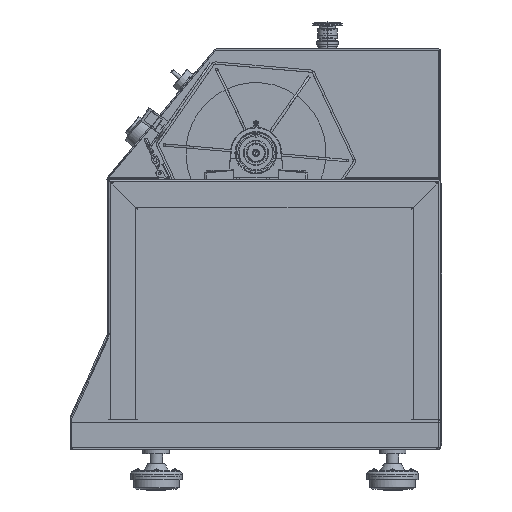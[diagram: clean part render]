
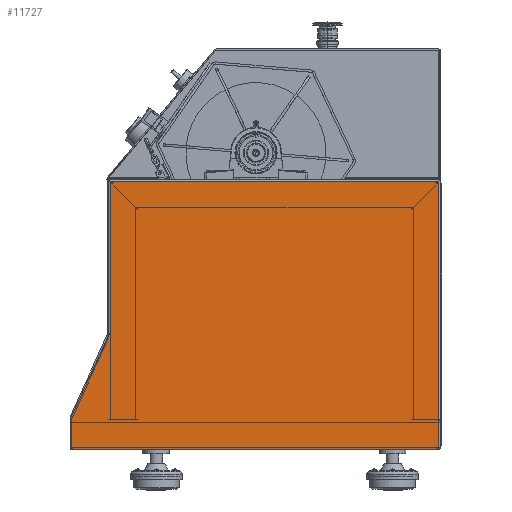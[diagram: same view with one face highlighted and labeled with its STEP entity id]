
A CAD part, left-side view. The second image highlights one B-rep face of the part: STEP entity #11727.
In plain terms, the highlighted planar face has unit normal (-1, 0, 0).
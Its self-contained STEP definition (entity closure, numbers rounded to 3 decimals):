
#11364=CARTESIAN_POINT('Vertex',(-496.5,301.5,94.35)) ;
#11367=CARTESIAN_POINT('Axis2P3D Location',(-496.5,297.,94.35)) ;
#11371=CARTESIAN_POINT('Vertex',(-496.5,301.097,96.212)) ;
#11402=CARTESIAN_POINT('Vertex',(-496.5,301.5,60.)) ;
#11405=CARTESIAN_POINT('Line Origine',(-496.5,301.5,77.175)) ;
#11433=CARTESIAN_POINT('Vertex',(-496.5,296.5,55.)) ;
#11436=CARTESIAN_POINT('Axis2P3D Location',(-496.5,296.5,60.)) ;
#11459=CARTESIAN_POINT('Vertex',(-496.5,-192.,55.)) ;
#11462=CARTESIAN_POINT('Line Origine',(-496.5,52.25,55.)) ;
#11495=CARTESIAN_POINT('Vertex',(-496.5,-197.,60.)) ;
#11498=CARTESIAN_POINT('Axis2P3D Location',(-496.5,-192.,60.)) ;
#11521=CARTESIAN_POINT('Vertex',(-496.5,-197.,412.)) ;
#11524=CARTESIAN_POINT('Line Origine',(-496.5,-197.,236.)) ;
#11557=CARTESIAN_POINT('Vertex',(-496.5,-192.,417.)) ;
#11560=CARTESIAN_POINT('Axis2P3D Location',(-496.5,-192.,412.)) ;
#11583=CARTESIAN_POINT('Vertex',(-496.5,242.,417.)) ;
#11586=CARTESIAN_POINT('Line Origine',(-496.5,25.,417.)) ;
#11619=CARTESIAN_POINT('Vertex',(-496.5,247.,412.)) ;
#11622=CARTESIAN_POINT('Axis2P3D Location',(-496.5,242.,412.)) ;
#11678=CARTESIAN_POINT('Line Origine',(-496.5,276.231,150.916)) ;
#11682=CARTESIAN_POINT('Vertex',(-496.5,251.366,205.621)) ;
#11697=CARTESIAN_POINT('Axis2P3D Location',(-496.5,0.,75.)) ;
#11702=CARTESIAN_POINT('Line Origine',(-496.5,247.,236.)) ;
#11706=CARTESIAN_POINT('Vertex',(-496.5,247.,215.225)) ;
#11710=CARTESIAN_POINT('Control Point',(-496.5,247.,215.225)) ;
#11711=CARTESIAN_POINT('Control Point',(-496.5,251.366,205.621)) ;
#11368=DIRECTION('Axis2P3D Direction',(-1.,0.,0.)) ;
#11406=DIRECTION('Vector Direction',(0.,0.,-1.)) ;
#11437=DIRECTION('Axis2P3D Direction',(-1.,0.,0.)) ;
#11463=DIRECTION('Vector Direction',(0.,-1.,0.)) ;
#11499=DIRECTION('Axis2P3D Direction',(-1.,0.,0.)) ;
#11525=DIRECTION('Vector Direction',(0.,0.,1.)) ;
#11561=DIRECTION('Axis2P3D Direction',(-1.,0.,0.)) ;
#11587=DIRECTION('Vector Direction',(0.,1.,0.)) ;
#11623=DIRECTION('Axis2P3D Direction',(-1.,0.,0.)) ;
#11679=DIRECTION('Vector Direction',(0.,0.414,-0.91)) ;
#11698=DIRECTION('Axis2P3D Direction',(-1.,0.,0.)) ;
#11699=DIRECTION('Axis2P3D XDirection',(0.,-1.,0.)) ;
#11703=DIRECTION('Vector Direction',(0.,0.,1.)) ;
#11369=AXIS2_PLACEMENT_3D('Circle Axis2P3D',#11367,#11368,$) ;
#11438=AXIS2_PLACEMENT_3D('Circle Axis2P3D',#11436,#11437,$) ;
#11500=AXIS2_PLACEMENT_3D('Circle Axis2P3D',#11498,#11499,$) ;
#11562=AXIS2_PLACEMENT_3D('Circle Axis2P3D',#11560,#11561,$) ;
#11624=AXIS2_PLACEMENT_3D('Circle Axis2P3D',#11622,#11623,$) ;
#11700=AXIS2_PLACEMENT_3D('Plane Axis2P3D',#11697,#11698,#11699) ;
#11714=ORIENTED_EDGE('',*,*,#11466,.T.) ;
#11715=ORIENTED_EDGE('',*,*,#11502,.F.) ;
#11716=ORIENTED_EDGE('',*,*,#11528,.T.) ;
#11717=ORIENTED_EDGE('',*,*,#11564,.F.) ;
#11718=ORIENTED_EDGE('',*,*,#11590,.T.) ;
#11719=ORIENTED_EDGE('',*,*,#11626,.F.) ;
#11720=ORIENTED_EDGE('',*,*,#11708,.T.) ;
#11721=ORIENTED_EDGE('',*,*,#11712,.T.) ;
#11722=ORIENTED_EDGE('',*,*,#11684,.T.) ;
#11723=ORIENTED_EDGE('',*,*,#11373,.T.) ;
#11724=ORIENTED_EDGE('',*,*,#11409,.T.) ;
#11725=ORIENTED_EDGE('',*,*,#11440,.F.) ;
#11407=VECTOR('Line Direction',#11406,1.) ;
#11464=VECTOR('Line Direction',#11463,1.) ;
#11526=VECTOR('Line Direction',#11525,1.) ;
#11588=VECTOR('Line Direction',#11587,1.) ;
#11680=VECTOR('Line Direction',#11679,1.) ;
#11704=VECTOR('Line Direction',#11703,1.) ;
#11727=ADVANCED_FACE('\X2\04200430043C0430\X0\\\Body.13',(#11726),#11701,.T.) ;
#11709=B_SPLINE_CURVE_WITH_KNOTS('',1,(#11710,#11711),.UNSPECIFIED.,.F.,.U.,(2,2),(-5.275,5.275),.UNSPECIFIED.) ;
#11370=CIRCLE('generated circle',#11369,4.5) ;
#11439=CIRCLE('generated circle',#11438,5.) ;
#11501=CIRCLE('generated circle',#11500,5.) ;
#11563=CIRCLE('generated circle',#11562,5.) ;
#11625=CIRCLE('generated circle',#11624,5.) ;
#11373=EDGE_CURVE('',#11372,#11365,#11370,.T.) ;
#11409=EDGE_CURVE('',#11365,#11403,#11408,.T.) ;
#11440=EDGE_CURVE('',#11434,#11403,#11439,.F.) ;
#11466=EDGE_CURVE('',#11434,#11460,#11465,.T.) ;
#11502=EDGE_CURVE('',#11496,#11460,#11501,.F.) ;
#11528=EDGE_CURVE('',#11496,#11522,#11527,.T.) ;
#11564=EDGE_CURVE('',#11558,#11522,#11563,.F.) ;
#11590=EDGE_CURVE('',#11558,#11584,#11589,.T.) ;
#11626=EDGE_CURVE('',#11620,#11584,#11625,.F.) ;
#11684=EDGE_CURVE('',#11683,#11372,#11681,.T.) ;
#11708=EDGE_CURVE('',#11620,#11707,#11705,.F.) ;
#11712=EDGE_CURVE('',#11707,#11683,#11709,.T.) ;
#11713=EDGE_LOOP('',(#11714,#11715,#11716,#11717,#11718,#11719,#11720,#11721,#11722,#11723,#11724,#11725)) ;
#11726=FACE_OUTER_BOUND('',#11713,.T.) ;
#11408=LINE('Line',#11405,#11407) ;
#11465=LINE('Line',#11462,#11464) ;
#11527=LINE('Line',#11524,#11526) ;
#11589=LINE('Line',#11586,#11588) ;
#11681=LINE('Line',#11678,#11680) ;
#11705=LINE('Line',#11702,#11704) ;
#11701=PLANE('Plane',#11700) ;
#11365=VERTEX_POINT('',#11364) ;
#11372=VERTEX_POINT('',#11371) ;
#11403=VERTEX_POINT('',#11402) ;
#11434=VERTEX_POINT('',#11433) ;
#11460=VERTEX_POINT('',#11459) ;
#11496=VERTEX_POINT('',#11495) ;
#11522=VERTEX_POINT('',#11521) ;
#11558=VERTEX_POINT('',#11557) ;
#11584=VERTEX_POINT('',#11583) ;
#11620=VERTEX_POINT('',#11619) ;
#11683=VERTEX_POINT('',#11682) ;
#11707=VERTEX_POINT('',#11706) ;
